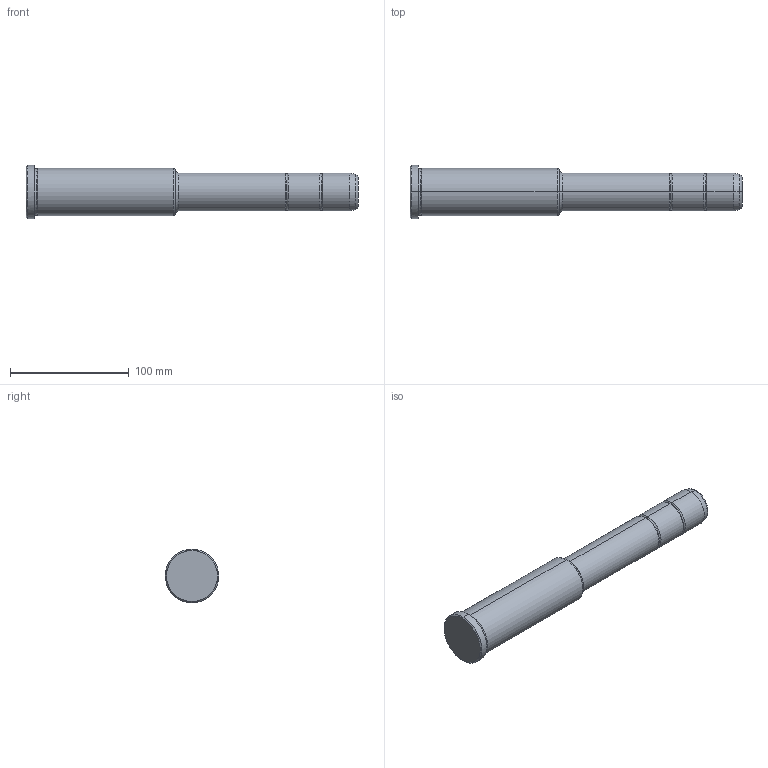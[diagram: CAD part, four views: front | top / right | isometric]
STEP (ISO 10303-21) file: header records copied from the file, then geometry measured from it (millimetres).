
FILE_DESCRIPTION(('CATIA V5 STEP Exchange'),'2;1');
FILE_NAME('C:\Users\Utente\Desktop\IO LAVORO\3D X SITO CF\X SITO\PLASTICA\351\351-32X126X280.stp','2021-09-15T12:23:46+00:00',('none'),('none'),'CATIA Version 5 Release 20 GA (IN-10)','CATIA V5 STEP AP203','none');
FILE_SCHEMA(('CONFIG_CONTROL_DESIGN'));
Length unit declared in the file: millimetre
Products named in the file (1): 351-32X126X280
Bounding box: 280 x 45 x 45 mm (x, y, z)
Volume: 283321.7 mm3; surface area: 34176.9 mm2
Topology: 1 solids, 1 shells, 36 faces, 102 edges, 70 vertices
Faces by surface type: torus 16, cylinder 10, cone 6, plane 4
Entity records: 1292 total; most frequent: CARTESIAN_POINT 321, ORIENTED_EDGE 204, DIRECTION 166, AXIS2_PLACEMENT_3D 115, EDGE_CURVE 102, CIRCLE 78, VERTEX_POINT 70, EDGE_LOOP 38
